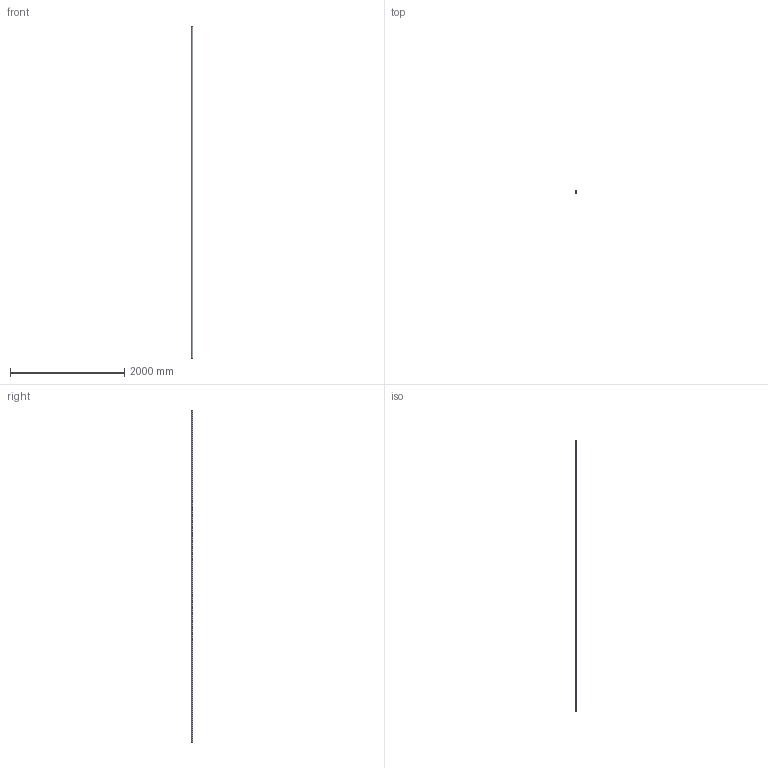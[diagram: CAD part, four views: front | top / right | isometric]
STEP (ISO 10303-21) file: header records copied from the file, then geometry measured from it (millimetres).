
FILE_DESCRIPTION((''),'2;1');
FILE_NAME('2009206100','2017-05-15T',('Administrator'),(''),'PRO/ENGINEER BY PARAMETRIC TECHNOLOGY CORPORATION, 2009360','PRO/ENGINEER BY PARAMETRIC TECHNOLOGY CORPORATION, 2009360','');
FILE_SCHEMA(('AUTOMOTIVE_DESIGN_CC2 { 1 2 10303 214 -1 1 5 2 }'));
Length unit declared in the file: millimetre
Products named in the file (1): 2009206100
Bounding box: 25.5 x 25.5 x 5800 mm (x, y, z)
Volume: 655964.5 mm3; surface area: 874845.6 mm2
Topology: 1 solids, 1 shells, 6 faces, 12 edges, 8 vertices
Faces by surface type: cylinder 4, plane 2
Entity records: 235 total; most frequent: DIRECTION 32, CARTESIAN_POINT 26, ORIENTED_EDGE 24, AXIS2_PLACEMENT_3D 14, PRESENTATION_STYLE_ASSIGNMENT 13, STYLED_ITEM 13, CURVE_STYLE 12, COLOUR_RGB 12
